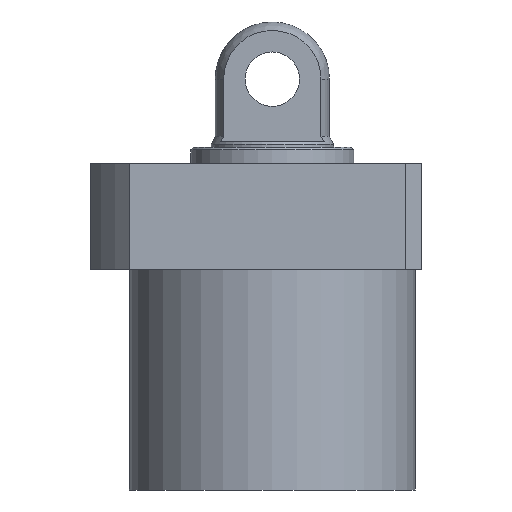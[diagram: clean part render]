
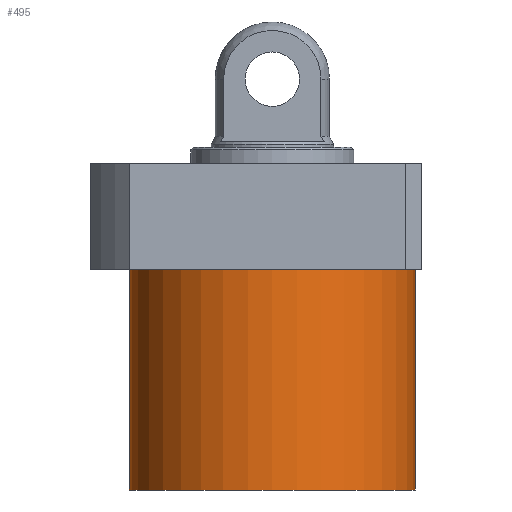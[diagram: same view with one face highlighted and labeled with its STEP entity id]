
A CAD part, front view. The second image highlights one B-rep face of the part: STEP entity #495.
In plain terms, the highlighted cylindrical face has radius 52.5 mm (diameter 105 mm), a partial arc.
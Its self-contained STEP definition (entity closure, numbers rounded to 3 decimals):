
#15 = ORIENTED_EDGE ( 'NONE', *, *, #1755, .F. ) ;
#49 = CIRCLE ( 'NONE', #1277, 52.5 ) ;
#52 = ORIENTED_EDGE ( 'NONE', *, *, #1275, .F. ) ;
#63 = ORIENTED_EDGE ( 'NONE', *, *, #807, .T. ) ;
#105 = CYLINDRICAL_SURFACE ( 'NONE', #514, 52.5 ) ;
#118 = DIRECTION ( 'NONE',  ( 0., 0., -1. ) ) ;
#121 = CARTESIAN_POINT ( 'NONE',  ( -52.5, 0., -100.5 ) ) ;
#182 = CARTESIAN_POINT ( 'NONE',  ( 0., 0., -100.5 ) ) ;
#248 = CARTESIAN_POINT ( 'NONE',  ( 0., 0., -100.5 ) ) ;
#355 = CARTESIAN_POINT ( 'NONE',  ( -52.5, 0., -19.5 ) ) ;
#433 = DIRECTION ( 'NONE',  ( 0., 0., 1. ) ) ;
#451 = DIRECTION ( 'NONE',  ( -1., 0., 0. ) ) ;
#467 = FACE_OUTER_BOUND ( 'NONE', #1058, .T. ) ;
#495 = ADVANCED_FACE ( 'NONE', ( #467 ), #105, .T. ) ;
#514 = AXIS2_PLACEMENT_3D ( 'NONE', #182, #433, #991 ) ;
#520 = CARTESIAN_POINT ( 'NONE',  ( -52.5, 0., -100.5 ) ) ;
#523 = ORIENTED_EDGE ( 'NONE', *, *, #871, .T. ) ;
#596 = LINE ( 'NONE', #834, #1512 ) ;
#801 = CIRCLE ( 'NONE', #1108, 52.5 ) ;
#807 = EDGE_CURVE ( 'NONE', #1302, #1661, #49, .T. ) ;
#825 = VECTOR ( 'NONE', #1046, 1000. ) ;
#834 = CARTESIAN_POINT ( 'NONE',  ( 52.5, 0., -100.5 ) ) ;
#871 = EDGE_CURVE ( 'NONE', #1335, #1302, #596, .T. ) ;
#924 = CARTESIAN_POINT ( 'NONE',  ( 0., 0., -19.5 ) ) ;
#962 = LINE ( 'NONE', #121, #825 ) ;
#991 = DIRECTION ( 'NONE',  ( 1., 0., 0. ) ) ;
#1046 = DIRECTION ( 'NONE',  ( 0., 0., 1. ) ) ;
#1058 = EDGE_LOOP ( 'NONE', ( #52, #15, #523, #63 ) ) ;
#1069 = CARTESIAN_POINT ( 'NONE',  ( 52.5, 0., -19.5 ) ) ;
#1094 = DIRECTION ( 'NONE',  ( 0., 0., 1. ) ) ;
#1108 = AXIS2_PLACEMENT_3D ( 'NONE', #248, #1194, #451 ) ;
#1194 = DIRECTION ( 'NONE',  ( 0., 0., -1. ) ) ;
#1217 = VERTEX_POINT ( 'NONE', #520 ) ;
#1275 = EDGE_CURVE ( 'NONE', #1217, #1661, #962, .T. ) ;
#1277 = AXIS2_PLACEMENT_3D ( 'NONE', #924, #118, #1763 ) ;
#1302 = VERTEX_POINT ( 'NONE', #1069 ) ;
#1335 = VERTEX_POINT ( 'NONE', #1384 ) ;
#1384 = CARTESIAN_POINT ( 'NONE',  ( 52.5, 0., -100.5 ) ) ;
#1512 = VECTOR ( 'NONE', #1094, 1000. ) ;
#1661 = VERTEX_POINT ( 'NONE', #355 ) ;
#1755 = EDGE_CURVE ( 'NONE', #1335, #1217, #801, .T. ) ;
#1763 = DIRECTION ( 'NONE',  ( 1., 0., 0. ) ) ;
